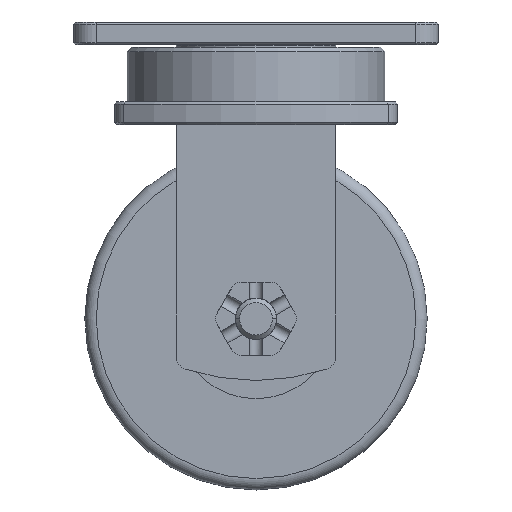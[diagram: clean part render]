
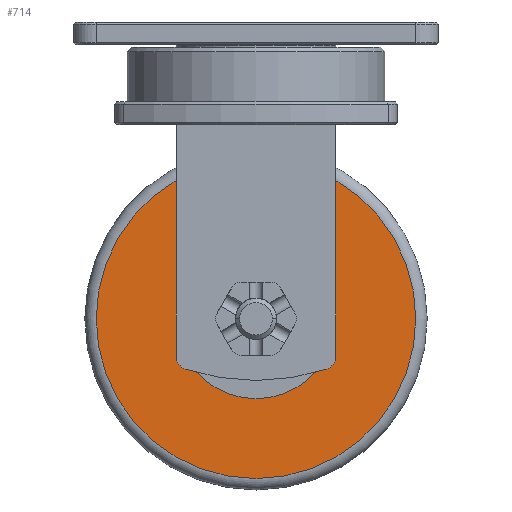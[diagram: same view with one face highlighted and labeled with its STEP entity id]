
A CAD part, front view. The second image highlights one B-rep face of the part: STEP entity #714.
In plain terms, the highlighted planar face has unit normal (0, -1, 0).
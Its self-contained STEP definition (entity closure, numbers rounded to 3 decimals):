
#714=ADVANCED_FACE('',(#1497,#1498),#993,.F.);
#993=PLANE('',#7432);
#1497=FACE_BOUND('',#1758,.T.);
#1498=FACE_BOUND('',#1759,.T.);
#1758=EDGE_LOOP('',(#3381));
#1759=EDGE_LOOP('',(#3382));
#2205=CIRCLE('',#7429,35.);
#2206=CIRCLE('',#7431,70.);
#3381=ORIENTED_EDGE('',*,*,#5626,.T.);
#3382=ORIENTED_EDGE('',*,*,#5625,.F.);
#4770=VERTEX_POINT('',#11437);
#4771=VERTEX_POINT('',#11440);
#5625=EDGE_CURVE('',#4770,#4770,#2205,.T.);
#5626=EDGE_CURVE('',#4771,#4771,#2206,.T.);
#7429=AXIS2_PLACEMENT_3D('',#11436,#8802,#8803);
#7431=AXIS2_PLACEMENT_3D('',#11439,#8806,#8807);
#7432=AXIS2_PLACEMENT_3D('',#11441,#8808,#8809);
#8802=DIRECTION('',(0.,-1.,0.));
#8803=DIRECTION('',(1.,0.,0.));
#8806=DIRECTION('',(0.,-1.,0.));
#8807=DIRECTION('',(1.,0.,0.));
#8808=DIRECTION('',(0.,1.,0.));
#8809=DIRECTION('',(-1.,0.,0.));
#11436=CARTESIAN_POINT('',(0.,-73.8,-130.));
#11437=CARTESIAN_POINT('',(35.,-73.8,-130.));
#11439=CARTESIAN_POINT('',(0.,-73.8,-130.));
#11440=CARTESIAN_POINT('',(70.,-73.8,-130.));
#11441=CARTESIAN_POINT('',(0.,-73.8,-130.));
